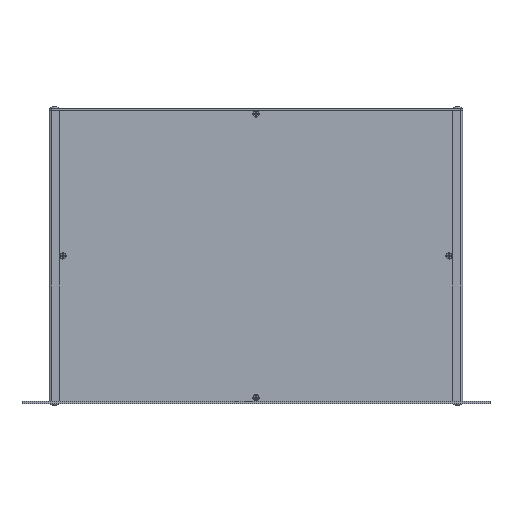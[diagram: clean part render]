
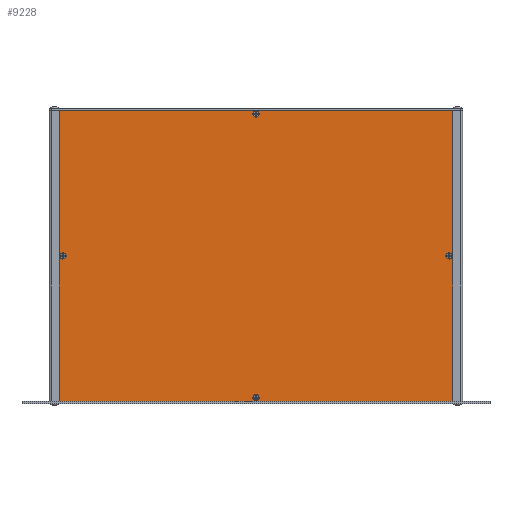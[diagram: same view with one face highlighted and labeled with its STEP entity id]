
A CAD part, top view. The second image highlights one B-rep face of the part: STEP entity #9228.
In plain terms, the highlighted planar face has unit normal (0, 0, 1).
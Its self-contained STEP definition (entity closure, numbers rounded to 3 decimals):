
#715=FACE_BOUND('',#1851,.T.);
#716=FACE_BOUND('',#1852,.T.);
#717=FACE_BOUND('',#1853,.T.);
#718=FACE_BOUND('',#1854,.T.);
#1002=PLANE('',#10108);
#1292=FACE_OUTER_BOUND('',#1850,.T.);
#1850=EDGE_LOOP('',(#6965,#6966,#6967,#6968));
#1851=EDGE_LOOP('',(#6969));
#1852=EDGE_LOOP('',(#6970));
#1853=EDGE_LOOP('',(#6971));
#1854=EDGE_LOOP('',(#6972));
#2713=LINE('',#14516,#3423);
#2714=LINE('',#14518,#3424);
#2715=LINE('',#14520,#3425);
#2716=LINE('',#14521,#3426);
#3423=VECTOR('',#11603,10.);
#3424=VECTOR('',#11604,10.);
#3425=VECTOR('',#11605,10.);
#3426=VECTOR('',#11606,10.);
#3943=CIRCLE('',#10104,3.2);
#3946=CIRCLE('',#10109,3.2);
#3947=CIRCLE('',#10110,3.2);
#3948=CIRCLE('',#10111,3.2);
#4510=VERTEX_POINT('',#14504);
#4513=VERTEX_POINT('',#14514);
#4514=VERTEX_POINT('',#14515);
#4515=VERTEX_POINT('',#14517);
#4516=VERTEX_POINT('',#14519);
#4517=VERTEX_POINT('',#14522);
#4518=VERTEX_POINT('',#14524);
#4519=VERTEX_POINT('',#14526);
#5402=EDGE_CURVE('',#4510,#4510,#3943,.T.);
#5407=EDGE_CURVE('',#4513,#4514,#2713,.T.);
#5408=EDGE_CURVE('',#4514,#4515,#2714,.T.);
#5409=EDGE_CURVE('',#4516,#4515,#2715,.T.);
#5410=EDGE_CURVE('',#4513,#4516,#2716,.T.);
#5411=EDGE_CURVE('',#4517,#4517,#3946,.T.);
#5412=EDGE_CURVE('',#4518,#4518,#3947,.T.);
#5413=EDGE_CURVE('',#4519,#4519,#3948,.T.);
#6965=ORIENTED_EDGE('',*,*,#5407,.T.);
#6966=ORIENTED_EDGE('',*,*,#5408,.T.);
#6967=ORIENTED_EDGE('',*,*,#5409,.F.);
#6968=ORIENTED_EDGE('',*,*,#5410,.F.);
#6969=ORIENTED_EDGE('',*,*,#5411,.F.);
#6970=ORIENTED_EDGE('',*,*,#5412,.F.);
#6971=ORIENTED_EDGE('',*,*,#5413,.F.);
#6972=ORIENTED_EDGE('',*,*,#5402,.F.);
#9228=ADVANCED_FACE('',(#1292,#715,#716,#717,#718),#1002,.T.);
#10104=AXIS2_PLACEMENT_3D('',#14505,#11591,#11592);
#10108=AXIS2_PLACEMENT_3D('',#14513,#11601,#11602);
#10109=AXIS2_PLACEMENT_3D('',#14523,#11607,#11608);
#10110=AXIS2_PLACEMENT_3D('',#14525,#11609,#11610);
#10111=AXIS2_PLACEMENT_3D('',#14527,#11611,#11612);
#11591=DIRECTION('center_axis',(0.,0.,1.));
#11592=DIRECTION('ref_axis',(-1.,0.,0.));
#11601=DIRECTION('center_axis',(0.,0.,1.));
#11602=DIRECTION('ref_axis',(1.,0.,0.));
#11603=DIRECTION('',(1.,0.,0.));
#11604=DIRECTION('',(0.,1.,0.));
#11605=DIRECTION('',(1.,0.,0.));
#11606=DIRECTION('',(0.,1.,0.));
#11607=DIRECTION('center_axis',(0.,0.,1.));
#11608=DIRECTION('ref_axis',(-1.,0.,0.));
#11609=DIRECTION('center_axis',(0.,0.,1.));
#11610=DIRECTION('ref_axis',(-1.,0.,0.));
#11611=DIRECTION('center_axis',(0.,0.,1.));
#11612=DIRECTION('ref_axis',(-1.,0.,0.));
#14504=CARTESIAN_POINT('',(45.5,150.,-42.05));
#14505=CARTESIAN_POINT('Origin',(42.3,150.,-42.05));
#14513=CARTESIAN_POINT('Origin',(38.4,0.,-42.05));
#14514=CARTESIAN_POINT('',(38.4,0.,-42.05));
#14515=CARTESIAN_POINT('',(444.6,0.,-42.05));
#14516=CARTESIAN_POINT('',(38.4,0.,-42.05));
#14517=CARTESIAN_POINT('',(444.6,300.,-42.05));
#14518=CARTESIAN_POINT('',(444.6,0.,-42.05));
#14519=CARTESIAN_POINT('',(38.4,300.,-42.05));
#14520=CARTESIAN_POINT('',(38.4,300.,-42.05));
#14521=CARTESIAN_POINT('',(38.4,0.,-42.05));
#14522=CARTESIAN_POINT('',(443.9,150.,-42.05));
#14523=CARTESIAN_POINT('Origin',(440.7,150.,-42.05));
#14524=CARTESIAN_POINT('',(244.7,296.5,-42.05));
#14525=CARTESIAN_POINT('Origin',(241.5,296.5,-42.05));
#14526=CARTESIAN_POINT('',(244.7,3.5,-42.05));
#14527=CARTESIAN_POINT('Origin',(241.5,3.5,-42.05));
